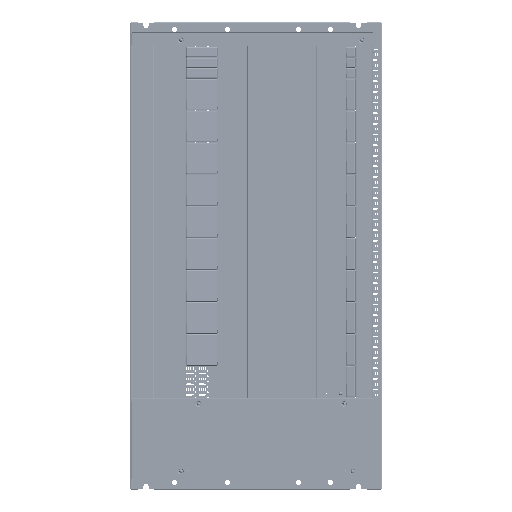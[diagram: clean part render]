
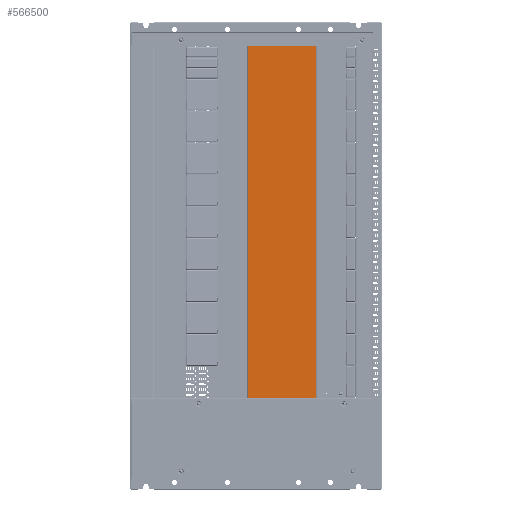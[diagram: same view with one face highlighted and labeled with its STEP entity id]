
A CAD part, top view. The second image highlights one B-rep face of the part: STEP entity #566500.
In plain terms, the highlighted planar face has unit normal (0, 0, 1).
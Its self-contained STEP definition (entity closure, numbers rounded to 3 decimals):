
#566284=DIRECTION('',(-1.,0.,0.));
#566285=VECTOR('',#566284,9.574);
#566286=CARTESIAN_POINT('',(26.237,62.587,5.8));
#566287=LINE('',#566286,#566285);
#566288=DIRECTION('',(-1.,0.,0.));
#566289=VECTOR('',#566288,9.574);
#566290=CARTESIAN_POINT('',(26.237,12.987,5.8));
#566291=LINE('',#566290,#566289);
#566301=DIRECTION('',(0.,1.,0.));
#566302=VECTOR('',#566301,49.6);
#566303=CARTESIAN_POINT('',(16.663,12.987,5.8));
#566304=LINE('',#566303,#566302);
#566346=DIRECTION('',(0.,-1.,0.));
#566347=VECTOR('',#566346,49.6);
#566348=CARTESIAN_POINT('',(26.237,62.587,5.8));
#566349=LINE('',#566348,#566347);
#566407=CARTESIAN_POINT('',(26.237,12.987,5.8));
#566409=VERTEX_POINT('',#566407);
#566410=CARTESIAN_POINT('',(16.663,12.987,5.8));
#566411=VERTEX_POINT('',#566410);
#566430=CARTESIAN_POINT('',(26.237,62.587,5.8));
#566431=CARTESIAN_POINT('',(16.663,62.587,5.8));
#566432=VERTEX_POINT('',#566430);
#566433=VERTEX_POINT('',#566431);
#566486=CARTESIAN_POINT('',(16.184,10.507,5.8));
#566487=DIRECTION('',(0.,0.,-1.));
#566488=DIRECTION('',(0.,1.,0.));
#566489=AXIS2_PLACEMENT_3D('',#566486,#566487,#566488);
#566490=PLANE('',#566489);
#566492=ORIENTED_EDGE('',*,*,#566491,.T.);
#566493=ORIENTED_EDGE('',*,*,#566459,.F.);
#566495=ORIENTED_EDGE('',*,*,#566494,.T.);
#566497=ORIENTED_EDGE('',*,*,#566496,.T.);
#566498=EDGE_LOOP('',(#566492,#566493,#566495,#566497));
#566499=FACE_OUTER_BOUND('',#566498,.F.);
#566500=ADVANCED_FACE('',(#566499),#566490,.F.);
#566459=EDGE_CURVE('',#566432,#566433,#566287,.T.);
#566491=EDGE_CURVE('',#566411,#566433,#566304,.T.);
#566494=EDGE_CURVE('',#566432,#566409,#566349,.T.);
#566496=EDGE_CURVE('',#566409,#566411,#566291,.T.);
